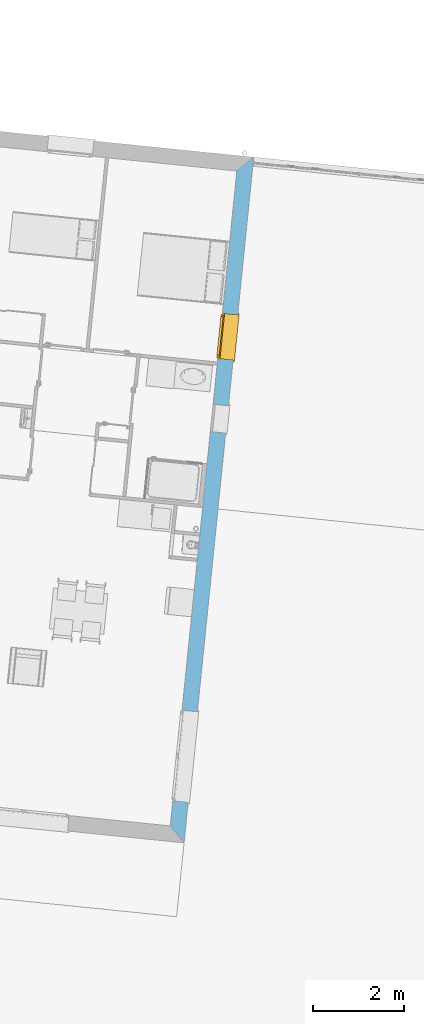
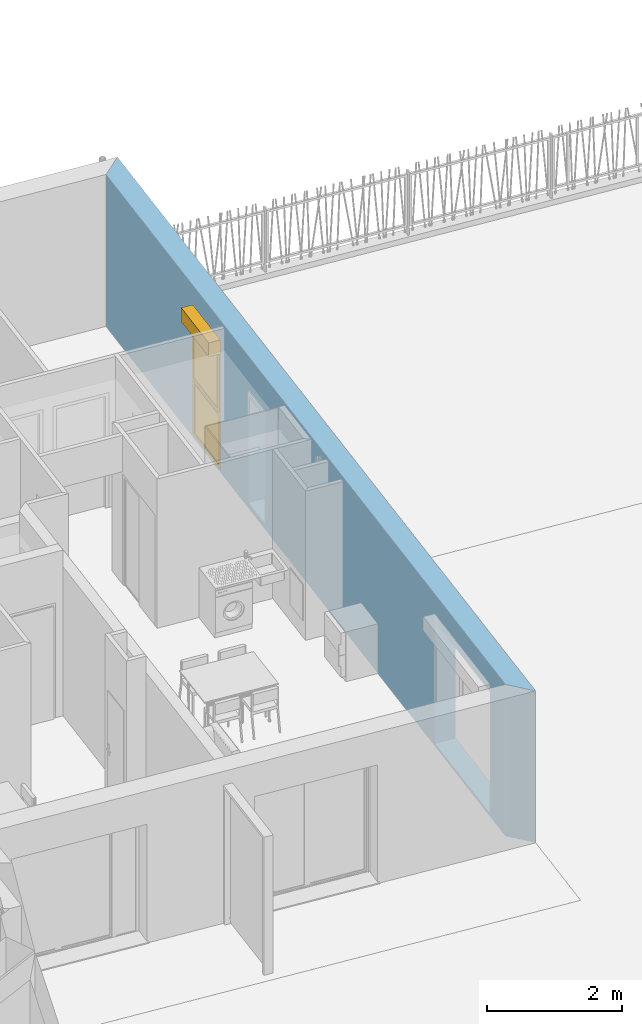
# One storey, part 78 of 171: 1 window, 3 openings, plus 1 element that does not belong to this part.
"""IFC2X3 building model written with IfcOpenShell, lengths in millimetres."""

from ifc_helpers import new_model, entity, si_unit, converted_unit, derived_unit, money_unit, direction, frame, origin_with_axes, origin_2d_with_axis, place, context, subcontext, project, spatial, polyline, rectangle, outline, extrude, open_shell, faceted_brep, surface_model, source, transform, mapped, material, layer, layer_set, layer_usage, type_object, element, fill, save


model = new_model("IFC2X3")

# Units and contexts
model_context = context("Model", 3, precision=0.01, world=origin_with_axes(), true_north=direction((0.0, 1.0)))
body_context = subcontext(model_context, "Body", "Model", "MODEL_VIEW")
ifc_project = project(units=[si_unit("LENGTHUNIT", "METRE", prefix="MILLI"), si_unit("AREAUNIT", "SQUARE_METRE"), si_unit("VOLUMEUNIT", "CUBIC_METRE"), converted_unit("PLANEANGLEUNIT", "DEGREE", entity("IfcPlaneAngleMeasure", 0.0174532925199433), si_unit("PLANEANGLEUNIT", "RADIAN"), dimensions=[0, 0, 0, 0, 0, 0, 0]), money_unit("USD"), converted_unit("TIMEUNIT", "Year", entity("IfcTimeMeasure", 31557600.0), si_unit("TIMEUNIT", "SECOND"), dimensions=[0, 0, 1, 0, 0, 0, 0]), si_unit("MASSUNIT", "GRAM", prefix="KILO"), si_unit("THERMODYNAMICTEMPERATUREUNIT", "DEGREE_CELSIUS"), si_unit("LUMINOUSINTENSITYUNIT", "LUMEN"), si_unit("ENERGYUNIT", "JOULE", prefix="MEGA"), derived_unit("THERMALCONDUCTANCEUNIT", [(si_unit("POWERUNIT", "WATT"), 1), (si_unit("LENGTHUNIT", "METRE"), -1), (si_unit("THERMODYNAMICTEMPERATUREUNIT", "KELVIN"), -1)]), derived_unit("SPECIFICHEATCAPACITYUNIT", [(si_unit("ENERGYUNIT", "JOULE"), 1), (si_unit("MASSUNIT", "GRAM", prefix="KILO"), -1), (si_unit("THERMODYNAMICTEMPERATUREUNIT", "KELVIN"), -1)]), derived_unit("MASSDENSITYUNIT", [(si_unit("MASSUNIT", "GRAM", prefix="KILO"), 1), (si_unit("VOLUMEUNIT", "CUBIC_METRE"), -1)])], contexts=[model_context])

# Site, building, storey
site_placement = place(None, origin_with_axes())
site = spatial("IfcSite", under=ifc_project, at=site_placement, Name="Site", CompositionType="ELEMENT")
building_placement = place(site_placement, origin_with_axes())
building = spatial("IfcBuilding", under=site, at=building_placement, Name="Bâtiment", CompositionType="ELEMENT")
storey_placement = place(building_placement, frame((0.0, 0.0, 3000.0), z_axis=(0.0, 0.0, 1.0), x_axis=(1.0, 0.0, 0.0)))
storey = spatial("IfcBuildingStorey", under=building, at=storey_placement, Name="rdc", CompositionType="ELEMENT", Elevation=3000.0)

# Wall, openings, window
ifc_material_1 = material(Name="Parpaing 312445824")
ifc_layer_1 = layer(ifc_material_1, 180.0, ventilated="UNKNOWN")
ifc_material_2 = material(Name="Isolant styromousse 301821074")
ifc_layer_2 = layer(ifc_material_2, 160.0, ventilated="UNKNOWN")
ifc_layer_set = layer_set([ifc_layer_1, ifc_layer_2], Name="isol int 18+16 0018356637")
ifc_layer_usage = layer_usage(ifc_layer_set, "AXIS2", "NEGATIVE", 0.0)
wall_type = type_object("IfcWallType", Name="isol int 18+16 0018356637 340", PredefinedType="NOTDEFINED")
wall_placement = place(storey_placement, frame((2240182.946874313, -606236.1516955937, 0.0), z_axis=(0.0, 0.0, 1.0), x_axis=(-0.1011032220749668, -0.9948759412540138, 0.0)))
wall = element("IfcWallStandardCase", 1, at=wall_placement, inside=storey, type_object=wall_type, material=ifc_layer_usage, Name="Mur-142", context=body_context, shape_type="SweptSolid", body=[
    extrude(outline(polyline([(339.9999999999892, -340.0000000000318), (14791.61370310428, -340.0000000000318), (15131.61370310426, -1.13686837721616e-10), (0.0, 0.0), (339.9999999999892, -340.0000000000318)])), origin_with_axes(), (0.0, 0.0, 1.0), 2750.0),
])
opening_1_placement = place(wall_placement, frame((13239.30937232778, -3.410605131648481e-10, 49.99999999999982), z_axis=(0.0, 0.0, 1.0), x_axis=(1.0, 0.0, 0.0)))
element("IfcOpeningElement", 2, at=opening_1_placement, cuts=wall, Name="Fen-207", context=body_context, shape_type="Brep", body=[
    faceted_brep([(-999.999999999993, -289.9999999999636, 2100.0), (-999.999999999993, -279.9999999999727, 2100.0), (-1000.0, 1523.015834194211, 2100.0), (-1000.0, 1523.015834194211, 0.0), (-999.9999999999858, -289.9999999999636, 0.0), (-999.9999999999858, -529.9999999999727, 2100.0), (-999.9999999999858, -529.9999999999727, 2350.0), (-999.999999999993, -279.9999999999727, 2350.0), (1000.0, -279.999999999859, 2100.0), (1000.000000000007, 1523.015834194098, 2100.0), (1000.000000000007, 1523.015834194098, 0.0), (1000.000000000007, -289.9999999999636, 0.0), (999.999999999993, -1863.015834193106, 0.0), (-999.999999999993, -1863.01583419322, 0.0), (-999.999999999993, -1863.01583419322, 2100.0), (1000.000000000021, -529.999999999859, 2100.0), (1000.000000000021, -529.999999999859, 2350.0), (1000.0, -279.999999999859, 2350.0), (1000.000000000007, -289.9999999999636, 2100.0), (999.999999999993, -1863.015834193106, 2100.0)], [[[0, 1, 2, 3, 4]], [[1, 0, 5, 6, 7]], [[1, 8, 9, 2]], [[9, 10, 3, 2]], [[4, 3, 10, 11, 12, 13]], [[5, 0, 4, 13, 14]], [[5, 15, 16, 6]], [[16, 17, 7, 6]], [[8, 1, 7, 17]], [[8, 18, 11, 10, 9]], [[18, 15, 19, 12, 11]], [[14, 13, 12, 19]], [[15, 5, 14, 19]], [[18, 8, 17, 16, 15]]]),
])
opening_2_placement = place(wall_placement, frame((3980.394196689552, -2.273736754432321e-10, 49.99999999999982), z_axis=(0.0, 0.0, 1.0), x_axis=(1.0, 0.0, 0.0)))
opening_2 = element("IfcOpeningElement", 3, at=opening_2_placement, cuts=wall, Name="Fen-133", context=body_context, shape_type="Brep", body=[
    faceted_brep([(-500.0000000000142, -290.0000000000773, 2100.0), (-500.0000000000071, -279.9999999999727, 2100.0), (-499.9999999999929, 1523.015834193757, 2100.0), (-499.9999999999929, 1523.015834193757, 0.0), (-500.0, -290.0000000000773, 0.0), (-499.9999999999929, -529.9999999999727, 2100.0), (-499.9999999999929, -529.9999999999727, 2350.0), (-500.0000000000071, -279.9999999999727, 2350.0), (500.0, -279.9999999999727, 2100.0), (500.0, 1523.01583419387, 2100.0), (500.0, 1523.01583419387, 0.0), (499.9999999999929, -290.0000000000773, 0.0), (499.9999999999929, -1863.01583419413, 0.0), (-499.9999999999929, -1863.01583419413, 0.0), (-499.9999999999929, -1863.01583419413, 2100.0), (499.9999999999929, -529.9999999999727, 2100.0), (499.9999999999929, -529.9999999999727, 2350.0), (500.0, -279.9999999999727, 2350.0), (499.9999999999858, -290.0000000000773, 2100.0), (499.9999999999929, -1863.01583419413, 2100.0)], [[[0, 1, 2, 3, 4]], [[1, 0, 5, 6, 7]], [[1, 8, 9, 2]], [[9, 10, 3, 2]], [[4, 3, 10, 11, 12, 13]], [[5, 0, 4, 13, 14]], [[5, 15, 16, 6]], [[16, 17, 7, 6]], [[8, 1, 7, 17]], [[8, 18, 11, 10, 9]], [[18, 15, 19, 12, 11]], [[14, 13, 12, 19]], [[15, 5, 14, 19]], [[18, 8, 17, 16, 15]]]),
])
opening_3_placement = place(wall_placement, frame((5788.845141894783, -3.410605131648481e-10, 100.0000000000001), z_axis=(0.0, 0.0, 1.0), x_axis=(1.0, 0.0, 0.0)))
element("IfcOpeningElement", 4, at=opening_3_placement, cuts=wall, Name="Fen-133", context=body_context, shape_type="SweptSolid", body=[
    extrude(rectangle(XDim=600.0000000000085, YDim=2050.0, at=origin_2d_with_axis()), frame((0.0, -290.0000000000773, 1025.0), z_axis=(0.0, -1.0, 0.0), x_axis=(-1.0, 0.0, 0.0)), (0.0, 0.0, -1.0), 629.9999999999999),
    extrude(rectangle(XDim=600.0000000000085, YDim=2050.0, at=origin_2d_with_axis()), frame((0.0, -290.0000000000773, 1025.0), z_axis=(0.0, 1.0, 0.0), x_axis=(-1.0, 0.0, 0.0)), (0.0, 0.0, -1.0), 389.9999999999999),
])
window_style = type_object("IfcWindowStyle", Name="Fenêtre 27", ConstructionType="NOTDEFINED", OperationType="DOUBLE_PANEL_HORIZONTAL", ParameterTakesPrecedence=False, Sizeable=False)
shared_shape = source(origin_with_axes(), body_context, "Body", "SurfaceModel", [
    surface_model("IfcShellBasedSurfaceModel", [(-500.0, -51.00000000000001, 40.00000000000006), (500.0, -51.00000000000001, 40.0), (500.0, -51.00000000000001, 50.0), (-500.0, -51.00000000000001, 50.00000000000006), (-530.0, -369.9999999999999, 28.96551724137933), (530.0, -369.9999999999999, 28.96551724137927), (530.0, -339.9999999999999, 30.00324289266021), (500.0, -339.9999999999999, 30.00324289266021), (-500.0, -339.9999999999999, 30.00324289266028), (-530.0, -339.9999999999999, 30.00324289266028), (-530.0, -369.9999999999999, 8.96551724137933), (530.0, -369.9999999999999, 8.965517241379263), (-530.0, -359.9999999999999, 18.96551724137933), (530.0, -359.9999999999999, 18.96551724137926)], [open_shell([[[0, 1, 2, 3]], [[4, 5, 6, 7, 1, 0, 8, 9]], [[10, 11, 5, 4]], [[12, 13, 11, 10]]])]),
    faceted_brep([(500.0, -59.99999999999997, 2350.0), (500.0, 190.0, 2350.0), (497.0, 190.0, 2350.0), (497.0, -59.99999999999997, 2350.0), (500.0, -59.99999999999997, 2100.0), (500.0, 190.0, 2100.0), (497.0, 190.0, 2100.0), (497.0, -59.99999999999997, 2100.0)], [[[0, 1, 2, 3]], [[0, 4, 5, 1]], [[1, 5, 6, 2]], [[3, 2, 6, 7]], [[4, 0, 3, 7]], [[5, 4, 7, 6]]]),
    faceted_brep([(-497.0, -59.99999999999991, 2350.0), (-497.0, 190.0000000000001, 2350.0), (-500.0, 190.0000000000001, 2350.0), (-500.0, -59.99999999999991, 2350.0), (-497.0, -59.99999999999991, 2100.0), (-497.0, 190.0000000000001, 2100.0), (-500.0, 190.0000000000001, 2100.0), (-500.0, -59.99999999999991, 2100.0)], [[[0, 1, 2, 3]], [[0, 4, 5, 1]], [[1, 5, 6, 2]], [[3, 2, 6, 7]], [[4, 0, 3, 7]], [[5, 4, 7, 6]]]),
    faceted_brep([(497.0, -60.0, 2100.0), (497.0, -60.0, 2350.0), (-497.0, -59.99999999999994, 2350.0), (-497.0, -59.99999999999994, 2100.0), (497.0, -56.99999999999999, 2100.0), (497.0, -56.99999999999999, 2347.0), (497.0, 187.0, 2347.0), (497.0, 187.0, 2103.0), (497.0, -37.99999999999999, 2103.0), (497.0, -37.99999999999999, 2100.0), (497.0, 190.0, 2100.0), (497.0, 190.0, 2350.0), (-497.0, 190.0000000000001, 2350.0), (-497.0, 190.0000000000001, 2100.0), (-497.0, -37.99999999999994, 2100.0), (-497.0, -37.99999999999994, 2103.0), (-497.0, 187.0000000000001, 2103.0), (-497.0, 187.0000000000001, 2347.0), (-497.0, -56.99999999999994, 2347.0), (-497.0, -56.99999999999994, 2100.0)], [[[0, 1, 2, 3]], [[0, 4, 5, 6, 7, 8, 9, 10, 11, 1]], [[1, 11, 12, 2]], [[3, 2, 12, 13, 14, 15, 16, 17, 18, 19]], [[4, 0, 3, 19]], [[5, 4, 19, 18]], [[6, 5, 18, 17]], [[7, 6, 17, 16]], [[8, 7, 16, 15]], [[9, 8, 15, 14]], [[10, 9, 14, 13]], [[11, 10, 13, 12]]]),
    faceted_brep([(494.0, -40.37442957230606, 2206.419644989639), (494.0, -35.54711042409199, 2188.403844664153), (494.0, -27.66471820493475, 2171.5), (494.0, -16.9667554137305, 2156.22172576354), (494.0, -3.778274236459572, 2143.03324458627), (494.0, 11.50000000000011, 2132.335281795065), (494.0, 28.40384466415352, 2124.452889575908), (494.0, 46.4196449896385, 2119.625570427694), (494.0, 65.00000000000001, 2118.0), (494.0, 83.58035501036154, 2119.625570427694), (494.0, 101.5961553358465, 2124.452889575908), (494.0, 118.4999999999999, 2132.335281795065), (494.0, 133.7782742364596, 2143.03324458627), (494.0, 146.9667554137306, 2156.22172576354), (494.0, 157.6647182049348, 2171.5), (494.0, 165.5471104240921, 2188.403844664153), (494.0, 170.3744295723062, 2206.419644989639), (494.0, 171.9999999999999, 2225.0), (494.0, 170.3744295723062, 2243.580355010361), (494.0, 165.5471104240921, 2261.596155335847), (494.0, 157.6647182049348, 2278.5), (494.0, 146.9667554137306, 2293.77827423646), (494.0, 133.7782742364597, 2306.966755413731), (494.0, 118.5, 2317.664718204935), (494.0, 101.5961553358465, 2325.547110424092), (494.0, 83.58035501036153, 2330.374429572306), (494.0, 64.99999999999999, 2332.0), (494.0, 46.41964498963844, 2330.374429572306), (494.0, 28.40384466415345, 2325.547110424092), (494.0, 11.5, 2317.664718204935), (494.0, -3.778274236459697, 2306.966755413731), (494.0, -16.96675541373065, 2293.77827423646), (494.0, -27.66471820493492, 2278.5), (494.0, -35.54711042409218, 2261.596155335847), (494.0, -40.37442957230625, 2243.580355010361), (494.0, -41.99999999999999, 2225.0), (-494.0, -40.374429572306, 2206.419644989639), (-494.0, -35.54711042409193, 2188.403844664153), (-494.0, -27.6647182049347, 2171.5), (-494.0, -16.96675541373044, 2156.22172576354), (-494.0, -3.778274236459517, 2143.03324458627), (-494.0, 11.50000000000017, 2132.335281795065), (-494.0, 28.40384466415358, 2124.452889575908), (-494.0, 46.41964498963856, 2119.625570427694), (-494.0, 65.00000000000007, 2118.0), (-494.0, 83.5803550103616, 2119.625570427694), (-494.0, 101.5961553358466, 2124.452889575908), (-494.0, 118.5, 2132.335281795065), (-494.0, 133.7782742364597, 2143.03324458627), (-494.0, 146.9667554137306, 2156.22172576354), (-494.0, 157.6647182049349, 2171.5), (-494.0, 165.5471104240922, 2188.403844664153), (-494.0, 170.3744295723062, 2206.419644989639), (-494.0, 172.0, 2225.0), (-494.0, 170.3744295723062, 2243.580355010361), (-494.0, 165.5471104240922, 2261.596155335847), (-494.0, 157.6647182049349, 2278.5), (-494.0, 146.9667554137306, 2293.77827423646), (-494.0, 133.7782742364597, 2306.966755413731), (-494.0, 118.5, 2317.664718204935), (-494.0, 101.5961553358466, 2325.547110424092), (-494.0, 83.58035501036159, 2330.374429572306), (-494.0, 65.00000000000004, 2332.0), (-494.0, 46.41964498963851, 2330.374429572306), (-494.0, 28.40384466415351, 2325.547110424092), (-494.0, 11.50000000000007, 2317.664718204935), (-494.0, -3.778274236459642, 2306.966755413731), (-494.0, -16.96675541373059, 2293.77827423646), (-494.0, -27.66471820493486, 2278.5), (-494.0, -35.54711042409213, 2261.596155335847), (-494.0, -40.37442957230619, 2243.580355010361), (-494.0, -41.99999999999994, 2225.0)], [[[0, 1, 2, 3, 4, 5, 6, 7, 8, 9, 10, 11, 12, 13, 14, 15, 16, 17, 18, 19, 20, 21, 22, 23, 24, 25, 26, 27, 28, 29, 30, 31, 32, 33, 34, 35]], [[1, 0, 36, 37]], [[2, 1, 37, 38]], [[3, 2, 38, 39]], [[4, 3, 39, 40]], [[5, 4, 40, 41]], [[6, 5, 41, 42]], [[7, 6, 42, 43]], [[8, 7, 43, 44]], [[9, 8, 44, 45]], [[10, 9, 45, 46]], [[11, 10, 46, 47]], [[12, 11, 47, 48]], [[13, 12, 48, 49]], [[14, 13, 49, 50]], [[15, 14, 50, 51]], [[16, 15, 51, 52]], [[17, 16, 52, 53]], [[18, 17, 53, 54]], [[19, 18, 54, 55]], [[20, 19, 55, 56]], [[21, 20, 56, 57]], [[22, 21, 57, 58]], [[23, 22, 58, 59]], [[24, 23, 59, 60]], [[25, 24, 60, 61]], [[26, 25, 61, 62]], [[27, 26, 62, 63]], [[28, 27, 63, 64]], [[29, 28, 64, 65]], [[30, 29, 65, 66]], [[31, 30, 66, 67]], [[32, 31, 67, 68]], [[33, 32, 68, 69]], [[34, 33, 69, 70]], [[35, 34, 70, 71]], [[0, 35, 71, 36]], [[36, 71, 70, 69, 68, 67, 66, 65, 64, 63, 62, 61, 60, 59, 58, 57, 56, 55, 54, 53, 52, 51, 50, 49, 48, 47, 46, 45, 44, 43, 42, 41, 40, 39, 38, 37]]]),
    faceted_brep([(-500.0, -34.99999999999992, 30.0), (-500.0, -59.99999999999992, 30.0), (-500.0, -59.99999999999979, 2100.0), (-500.0, -34.99999999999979, 2100.0), (-475.0, -34.99999999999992, 30.0), (-475.0, -37.99999999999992, 30.0), (-497.0, -37.99999999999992, 30.0), (-497.0, -56.99999999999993, 30.0), (-475.0, -56.99999999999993, 30.0), (-475.0, -59.99999999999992, 30.0), (-475.0, -59.99999999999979, 2100.0), (-475.0, -56.99999999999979, 2100.0), (-497.0, -56.99999999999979, 2100.0), (-497.0, -37.99999999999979, 2100.0), (-475.0, -37.99999999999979, 2100.0), (-475.0, -34.99999999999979, 2100.0)], [[[0, 1, 2, 3]], [[0, 4, 5, 6, 7, 8, 9, 1]], [[1, 9, 10, 2]], [[3, 2, 10, 11, 12, 13, 14, 15]], [[4, 0, 3, 15]], [[5, 4, 15, 14]], [[6, 5, 14, 13]], [[7, 6, 13, 12]], [[8, 7, 12, 11]], [[9, 8, 11, 10]]]),
    faceted_brep([(500.0, -34.99999999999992, 30.0), (500.0, -34.99999999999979, 2100.0), (500.0, -59.99999999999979, 2100.0), (500.0, -59.99999999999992, 30.0), (475.0, -34.99999999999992, 30.0), (475.0, -34.99999999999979, 2100.0), (475.0, -37.99999999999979, 2100.0), (497.0, -37.99999999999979, 2100.0), (497.0, -56.99999999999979, 2100.0), (475.0, -56.99999999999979, 2100.0), (475.0, -59.99999999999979, 2100.0), (475.0, -59.99999999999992, 30.0), (475.0, -56.99999999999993, 30.0), (497.0, -56.99999999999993, 30.0), (497.0, -37.99999999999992, 30.0), (475.0, -37.99999999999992, 30.0)], [[[0, 1, 2, 3]], [[4, 5, 1, 0]], [[1, 5, 6, 7, 8, 9, 10, 2]], [[3, 2, 10, 11]], [[0, 3, 11, 12, 13, 14, 15, 4]], [[15, 6, 5, 4]], [[14, 7, 6, 15]], [[13, 8, 7, 14]], [[12, 9, 8, 13]], [[11, 10, 9, 12]]]),
    faceted_brep([(-497.0, -46.66666666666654, 2225.0), (497.0, -46.6666666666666, 2225.0), (497.0, -46.6666666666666, 2216.666666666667), (-497.0, -46.66666666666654, 2216.666666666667), (-497.0, -51.66666666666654, 2225.0), (497.0, -51.6666666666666, 2225.0), (497.0, -51.6666666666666, 2216.666666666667), (497.0, -49.99999999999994, 2200.0), (497.0, -44.99999999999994, 2200.0), (-497.0, -44.99999999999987, 2200.0), (-497.0, -49.99999999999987, 2200.0), (-497.0, -51.66666666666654, 2216.666666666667)], [[[0, 1, 2, 3]], [[1, 0, 4, 5]], [[1, 5, 6, 7, 8, 2]], [[2, 8, 9, 3]], [[4, 0, 3, 9, 10, 11]], [[6, 5, 4, 11]], [[7, 6, 11, 10]], [[8, 7, 10, 9]]]),
    faceted_brep([(497.0, -44.99999999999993, 2200.0), (497.0, -46.6666666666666, 2183.333333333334), (-497.0, -46.66666666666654, 2183.333333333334), (-497.0, -44.99999999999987, 2200.0), (497.0, -49.99999999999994, 2200.0), (497.0, -51.6666666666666, 2183.333333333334), (497.0, -51.6666666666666, 2166.666666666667), (497.0, -49.99999999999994, 2150.000000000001), (497.0, -44.99999999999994, 2150.000000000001), (497.0, -46.6666666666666, 2166.666666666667), (-497.0, -46.66666666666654, 2166.666666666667), (-497.0, -44.99999999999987, 2150.000000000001), (-497.0, -49.99999999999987, 2150.000000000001), (-497.0, -51.66666666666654, 2166.666666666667), (-497.0, -51.66666666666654, 2183.333333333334), (-497.0, -49.99999999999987, 2200.0)], [[[0, 1, 2, 3]], [[0, 4, 5, 6, 7, 8, 9, 1]], [[1, 9, 10, 2]], [[3, 2, 10, 11, 12, 13, 14, 15]], [[4, 0, 3, 15]], [[5, 4, 15, 14]], [[6, 5, 14, 13]], [[7, 6, 13, 12]], [[8, 7, 12, 11]], [[9, 8, 11, 10]]]),
    faceted_brep([(497.0, -44.99999999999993, 2150.000000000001), (497.0, -46.6666666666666, 2133.333333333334), (-497.0, -46.66666666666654, 2133.333333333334), (-497.0, -44.99999999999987, 2150.000000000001), (497.0, -49.99999999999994, 2150.000000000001), (497.0, -51.6666666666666, 2133.333333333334), (497.0, -51.6666666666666, 2116.666666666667), (497.0, -49.99999999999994, 2100.000000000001), (497.0, -44.99999999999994, 2100.000000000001), (497.0, -46.6666666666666, 2116.666666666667), (-497.0, -46.66666666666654, 2116.666666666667), (-497.0, -44.99999999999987, 2100.000000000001), (-497.0, -49.99999999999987, 2100.000000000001), (-497.0, -51.66666666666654, 2116.666666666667), (-497.0, -51.66666666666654, 2133.333333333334), (-497.0, -49.99999999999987, 2150.000000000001)], [[[0, 1, 2, 3]], [[0, 4, 5, 6, 7, 8, 9, 1]], [[1, 9, 10, 2]], [[3, 2, 10, 11, 12, 13, 14, 15]], [[4, 0, 3, 15]], [[5, 4, 15, 14]], [[6, 5, 14, 13]], [[7, 6, 13, 12]], [[8, 7, 12, 11]], [[9, 8, 11, 10]]]),
    faceted_brep([(475.0000000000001, 0.0, 2050.0), (475.0000000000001, -25.00000000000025, 2050.0), (450.0, -25.00000000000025, 2050.0), (450.0, -50.00000000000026, 2050.0), (500.0, -50.00000000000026, 2050.0), (500.0, 0.0, 2050.0), (475.0000000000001, 0.0, 1025.0), (475.0000000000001, -25.00000000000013, 1025.0), (450.0, -25.00000000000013, 1050.0), (450.0, -25.00000000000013, 1025.0), (450.0, -50.00000000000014, 1050.0), (450.0, -50.00000000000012, 950.0), (450.0, -50.00000000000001, 50.00000000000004), (500.0, -50.00000000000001, 50.00000000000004), (500.0, 0.0, 50.00000000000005), (450.0, 0.0, 50.00000000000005), (450.0, 0.0, 950.0), (450.0, 0.0, 1025.0)], [[[0, 1, 2, 3, 4, 5]], [[1, 0, 6, 7]], [[8, 2, 1, 7, 9]], [[2, 8, 10, 3]], [[10, 11, 12, 13, 4, 3]], [[5, 4, 13, 14]], [[6, 0, 5, 14, 15, 16, 17]], [[6, 17, 9, 7]], [[9, 17, 16, 11, 10, 8]], [[15, 12, 11, 16]], [[14, 13, 12, 15]]]),
    faceted_brep([(-450.0, -25.00000000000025, 2050.0), (-475.0000000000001, -25.00000000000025, 2050.0), (-475.0000000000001, 0.0, 2050.0), (-500.0, 0.0, 2050.0), (-500.0, -50.00000000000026, 2050.0), (-450.0, -50.00000000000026, 2050.0), (-450.0, -25.00000000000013, 1050.0), (-450.0, -25.00000000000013, 1025.0), (-475.0000000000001, -25.00000000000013, 1025.0), (-475.0000000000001, 0.0, 1025.0), (-450.0, 0.0, 1025.0), (-450.0, 0.0, 950.0), (-450.0, 0.0, 50.00000000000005), (-500.0, 0.0, 50.00000000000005), (-500.0, -50.00000000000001, 50.00000000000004), (-450.0, -50.00000000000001, 50.00000000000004), (-450.0, -50.00000000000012, 950.0), (-450.0, -50.00000000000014, 1050.0)], [[[0, 1, 2, 3, 4, 5]], [[1, 0, 6, 7, 8]], [[9, 2, 1, 8]], [[9, 10, 11, 12, 13, 3, 2]], [[13, 14, 4, 3]], [[14, 15, 16, 17, 5, 4]], [[6, 0, 5, 17]], [[7, 6, 17, 16, 11, 10]], [[10, 9, 8, 7]], [[11, 16, 15, 12]], [[12, 15, 14, 13]]]),
    faceted_brep([(450.0, -25.00000000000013, 1050.0), (-450.0, -25.00000000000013, 1050.0), (-450.0, -50.00000000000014, 1050.0), (450.0, -50.00000000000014, 1050.0), (-450.0, -25.00000000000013, 1025.0), (450.0, -25.00000000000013, 1025.0), (-450.0, 0.0, 1025.0), (-450.0, 0.0, 950.0), (-450.0, -50.00000000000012, 950.0), (450.0, -50.00000000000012, 950.0), (450.0, 0.0, 950.0), (450.0, 0.0, 1025.0)], [[[0, 1, 2, 3]], [[4, 1, 0, 5]], [[4, 6, 7, 8, 2, 1]], [[8, 9, 3, 2]], [[5, 0, 3, 9, 10, 11]], [[11, 6, 4, 5]], [[6, 11, 10, 7]], [[10, 9, 8, 7]]]),
    faceted_brep([(475.0000000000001, 0.0, 2050.0), (475.0000000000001, 0.0, 2075.0), (-475.0000000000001, 0.0, 2075.0), (-475.0000000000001, 0.0, 2050.0), (-500.0, 0.0, 2050.0), (-500.0, 0.0, 2100.0), (500.0, 0.0, 2100.0), (500.0, 0.0, 2050.0), (475.0000000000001, -25.00000000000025, 2050.0), (475.0000000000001, -25.00000000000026, 2075.0), (-475.0000000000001, -25.00000000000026, 2075.0), (-475.0000000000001, -25.00000000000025, 2050.0), (-450.0, -25.00000000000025, 2050.0), (-450.0, -50.00000000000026, 2050.0), (-500.0, -50.00000000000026, 2050.0), (-500.0, -50.00000000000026, 2100.0), (500.0, -50.00000000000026, 2100.0), (500.0, -50.00000000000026, 2050.0), (450.0, -50.00000000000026, 2050.0), (450.0, -25.00000000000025, 2050.0)], [[[0, 1, 2, 3, 4, 5, 6, 7]], [[1, 0, 8, 9]], [[2, 1, 9, 10]], [[3, 2, 10, 11]], [[11, 12, 13, 14, 4, 3]], [[4, 14, 15, 5]], [[5, 15, 16, 6]], [[6, 16, 17, 7]], [[8, 0, 7, 17, 18, 19]], [[12, 11, 10, 9, 8, 19]], [[12, 19, 18, 13]], [[14, 13, 18, 17, 16, 15]]]),
    faceted_brep([(450.0, -50.00000000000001, 50.0), (500.0, -50.00000000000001, 50.0), (500.0, 0.0, 50.00000000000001), (450.0, 0.0, 50.00000000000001), (-450.0, -50.00000000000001, 50.0), (-500.0, -50.00000000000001, 50.0), (-500.0, -50.0, 0.0), (500.0, -50.0, 0.0), (500.0, 0.0, 0.0), (-500.0, 0.0, 0.0), (-500.0, 0.0, 50.00000000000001), (-450.0, 0.0, 50.00000000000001)], [[[0, 1, 2, 3]], [[0, 4, 5, 6, 7, 1]], [[1, 7, 8, 2]], [[3, 2, 8, 9, 10, 11]], [[4, 0, 3, 11]], [[5, 4, 11, 10]], [[6, 5, 10, 9]], [[7, 6, 9, 8]]]),
    faceted_brep([(425.0000000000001, -25.00000000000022, 2025.0), (475.0000000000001, -25.00000000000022, 2025.0), (475.0000000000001, 24.99999999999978, 2025.0), (425.0000000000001, 24.99999999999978, 2025.0), (425.0000000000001, -25.00000000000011, 1075.0), (475.0000000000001, -25.0000000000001, 1075.0), (475.0000000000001, 24.9999999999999, 1075.0), (425.0000000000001, 24.9999999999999, 1075.0)], [[[0, 1, 2, 3]], [[0, 4, 5, 1]], [[1, 5, 6, 2]], [[3, 2, 6, 7]], [[4, 0, 3, 7]], [[5, 4, 7, 6]]]),
    faceted_brep([(-425.0000000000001, -25.00000000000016, 1075.0), (-475.0000000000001, -25.00000000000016, 1075.0), (-475.0000000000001, 24.99999999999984, 1075.0), (-425.0000000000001, 24.99999999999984, 1075.0), (-425.0000000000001, -25.00000000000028, 2025.0), (-475.0000000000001, -25.00000000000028, 2025.0), (-475.0000000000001, 24.99999999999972, 2025.0), (-425.0000000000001, 24.99999999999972, 2025.0)], [[[0, 1, 2, 3]], [[0, 4, 5, 1]], [[1, 5, 6, 2]], [[3, 2, 6, 7]], [[4, 0, 3, 7]], [[5, 4, 7, 6]]]),
    faceted_brep([(-475.0000000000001, -25.00000000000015, 1025.0), (-475.0000000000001, -25.00000000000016, 1075.0), (-475.0000000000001, 24.99999999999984, 1075.0), (-475.0000000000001, 24.99999999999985, 1025.0), (475.0000000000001, -25.0000000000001, 1025.0), (475.0000000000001, -25.0000000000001, 1075.0), (425.0000000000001, -25.00000000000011, 1075.0), (-425.0000000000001, -25.00000000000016, 1075.0), (-425.0000000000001, 24.99999999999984, 1075.0), (425.0000000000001, 24.9999999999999, 1075.0), (475.0000000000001, 24.9999999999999, 1075.0), (475.0000000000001, 24.9999999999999, 1025.0)], [[[0, 1, 2, 3]], [[0, 4, 5, 6, 7, 1]], [[1, 7, 8, 2]], [[3, 2, 8, 9, 10, 11]], [[4, 0, 3, 11]], [[5, 4, 11, 10]], [[6, 5, 10, 9]], [[7, 6, 9, 8]]]),
    faceted_brep([(475.0000000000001, -25.00000000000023, 2075.0), (475.0000000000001, -25.00000000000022, 2025.0), (475.0000000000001, 24.99999999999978, 2025.0), (475.0000000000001, 24.99999999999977, 2075.0), (-475.0000000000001, -25.00000000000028, 2075.0), (-475.0000000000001, -25.00000000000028, 2025.0), (-425.0000000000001, -25.00000000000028, 2025.0), (425.0000000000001, -25.00000000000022, 2025.0), (425.0000000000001, 24.99999999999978, 2025.0), (-425.0000000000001, 24.99999999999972, 2025.0), (-475.0000000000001, 24.99999999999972, 2025.0), (-475.0000000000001, 24.99999999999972, 2075.0)], [[[0, 1, 2, 3]], [[0, 4, 5, 6, 7, 1]], [[1, 7, 8, 2]], [[3, 2, 8, 9, 10, 11]], [[4, 0, 3, 11]], [[5, 4, 11, 10]], [[6, 5, 10, 9]], [[7, 6, 9, 8]]]),
    surface_model("IfcShellBasedSurfaceModel", [(425.0000000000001, -10.00000000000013, 1075.0), (425.0000000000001, -10.00000000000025, 2025.0), (-425.0000000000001, -10.00000000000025, 2025.0), (-425.0000000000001, -10.00000000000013, 1075.0)], [open_shell([[[0, 1, 2, 3]]])]),
    surface_model("IfcShellBasedSurfaceModel", [(425.0000000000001, 9.999999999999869, 1075.0), (-425.0000000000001, 9.999999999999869, 1075.0), (-425.0000000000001, 9.999999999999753, 2025.0), (425.0000000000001, 9.999999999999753, 2025.0)], [open_shell([[[0, 1, 2, 3]]])]),
    surface_model("IfcShellBasedSurfaceModel", [(450.0, -35.0, 49.99999999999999), (450.0, -35.00000000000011, 950.0), (-450.0, -35.00000000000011, 950.0), (-450.0, -35.0, 49.99999999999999)], [open_shell([[[0, 1, 2, 3]]])]),
    surface_model("IfcShellBasedSurfaceModel", [(450.0, -15.0, 49.99999999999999), (-450.0, -15.0, 49.99999999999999), (-450.0, -15.00000000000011, 950.0), (450.0, -15.00000000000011, 950.0)], [open_shell([[[0, 1, 2, 3]]])]),
])
window_placement = place(opening_2_placement, frame((499.9999999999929, 0.0, 0.0), z_axis=(0.0, 0.0, 1.0), x_axis=(-1.0, 0.0, 0.0)))
window = element("IfcWindow", 5, at=window_placement, inside=storey, type_object=window_style, Name="Fen-133", OverallHeight=2100.0, OverallWidth=1000.0, context=body_context, shape_type="MappedRepresentation", body=[
    mapped(shared_shape, transform((500.0, 340.0000000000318, 0.0))),
])
fill(opening_2, window)

save(model, "model.ifc")
